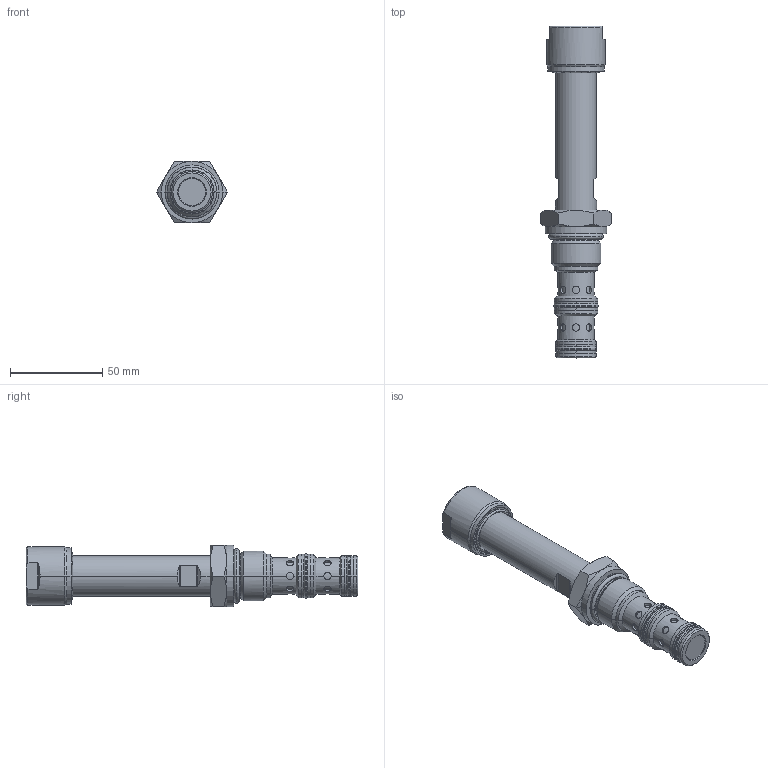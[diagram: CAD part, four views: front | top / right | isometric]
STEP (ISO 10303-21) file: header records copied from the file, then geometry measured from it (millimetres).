
FILE_DESCRIPTION((''),'2;1');
FILE_NAME('ESDV-12-3_-__-OUT20','2020-11-11T',('torrese'),(''),'CREO PARAMETRIC BY PTC INC, 2018360','CREO PARAMETRIC BY PTC INC, 2018360','');
FILE_SCHEMA(('AUTOMOTIVE_DESIGN { 1 0 10303 214 1 1 1 1 }'));
Length unit declared in the file: inch
Products named in the file (1): ESDV-12-3_-__-OUT20
Bounding box: 38.48 x 179.81 x 33.32 mm (x, y, z)
Volume: 86993.6 mm3; surface area: 17781.8 mm2
Topology: 1 solids, 1 shells, 213 faces, 471 edges, 288 vertices
Faces by surface type: cylinder 110, plane 47, cone 30, torus 26
Entity records: 19923 total; most frequent: CARTESIAN_POINT 12310, DIRECTION 949, ORIENTED_EDGE 942, PRESENTATION_STYLE_ASSIGNMENT 611, STYLED_ITEM 472, CURVE_STYLE 471, EDGE_CURVE 471, AXIS2_PLACEMENT_3D 393
